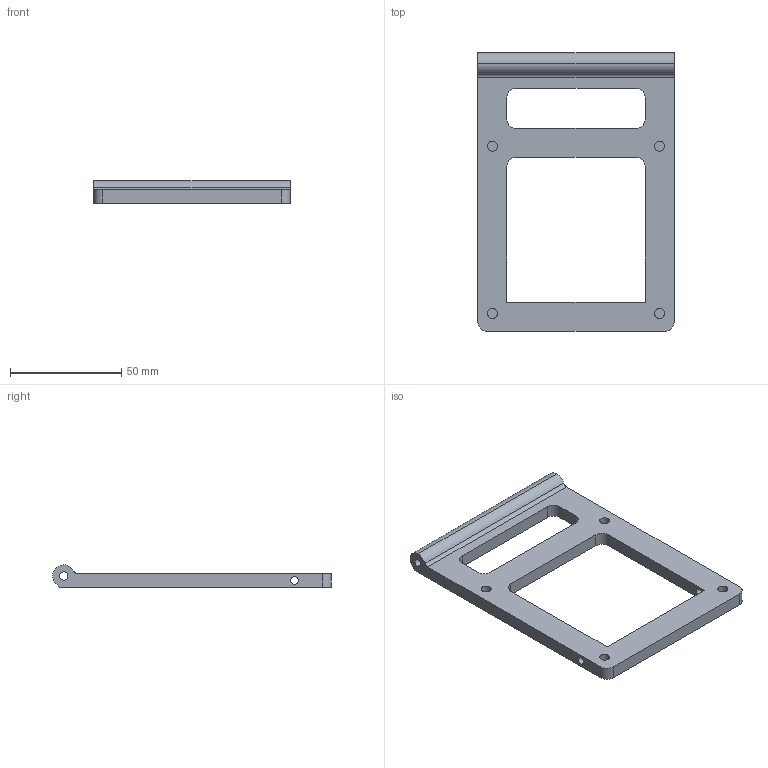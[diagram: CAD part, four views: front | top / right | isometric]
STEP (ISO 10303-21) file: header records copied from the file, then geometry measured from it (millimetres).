
FILE_DESCRIPTION (( 'STEP AP214' ), '1' );
FILE_NAME ('monitor_bracket.STEP', '2015-02-27T02:28:54', ( '' ), ( '' ), '', '', '' );
FILE_SCHEMA (( '' ));
Length unit declared in the file: millimetre
Products named in the file (1): monitor_bracket
Bounding box: 88 x 124.99 x 10 mm (x, y, z)
Volume: 35468.2 mm3; surface area: 18570.4 mm2
Topology: 1 solids, 1 shells, 55 faces, 135 edges, 90 vertices
Faces by surface type: cylinder 33, plane 22
Entity records: 1698 total; most frequent: DIRECTION 313, CARTESIAN_POINT 281, ORIENTED_EDGE 270, EDGE_CURVE 135, AXIS2_PLACEMENT_3D 122, VERTEX_POINT 90, EDGE_LOOP 73, LINE 69
